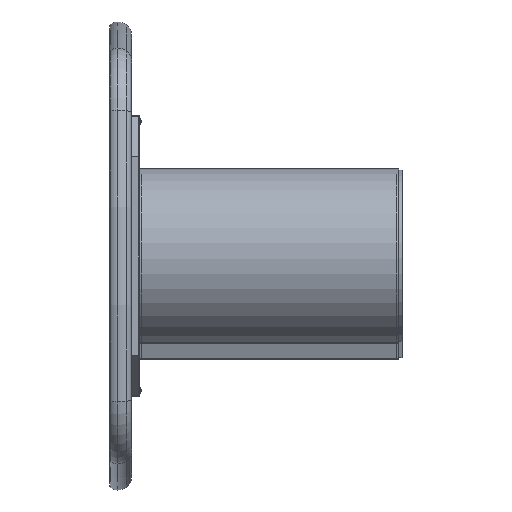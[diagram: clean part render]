
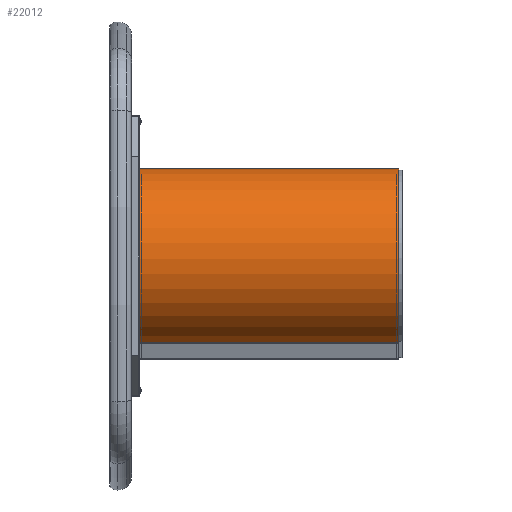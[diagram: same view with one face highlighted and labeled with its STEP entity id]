
A CAD part, left-side view. The second image highlights one B-rep face of the part: STEP entity #22012.
In plain terms, the highlighted cylindrical face has radius 230 mm (diameter 460 mm), a partial arc.
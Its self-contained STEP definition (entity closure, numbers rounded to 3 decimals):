
#123 = DIRECTION ( 'NONE',  ( 0., -1., 0. ) ) ;
#242 = CARTESIAN_POINT ( 'NONE',  ( 2., 665., -230. ) ) ;
#912 = ORIENTED_EDGE ( 'NONE', *, *, #4979, .F. ) ;
#1598 = VECTOR ( 'NONE', #9462, 1000. ) ;
#1919 = EDGE_CURVE ( 'NONE', #7581, #22586, #5926, .T. ) ;
#2426 = CARTESIAN_POINT ( 'NONE',  ( 2., 0., 230. ) ) ;
#3101 = CARTESIAN_POINT ( 'NONE',  ( 2., 0., 0. ) ) ;
#4751 = DIRECTION ( 'NONE',  ( 0., 0., 1. ) ) ;
#4880 = CARTESIAN_POINT ( 'NONE',  ( 2., 665., 230. ) ) ;
#4979 = EDGE_CURVE ( 'NONE', #22586, #11852, #11058, .T. ) ;
#5451 = DIRECTION ( 'NONE',  ( 0., -1., 0. ) ) ;
#5926 = CIRCLE ( 'NONE', #12911, 230. ) ;
#6035 = CARTESIAN_POINT ( 'NONE',  ( 2., 0., -230. ) ) ;
#6041 = AXIS2_PLACEMENT_3D ( 'NONE', #10418, #5451, #21444 ) ;
#6675 = DIRECTION ( 'NONE',  ( 0., 1., 0. ) ) ;
#7036 = CARTESIAN_POINT ( 'NONE',  ( 2., 665., -230. ) ) ;
#7059 = CIRCLE ( 'NONE', #14788, 230. ) ;
#7581 = VERTEX_POINT ( 'NONE', #4880 ) ;
#8644 = EDGE_LOOP ( 'NONE', ( #16719, #912, #21336, #10067 ) ) ;
#9462 = DIRECTION ( 'NONE',  ( 0., -1., 0. ) ) ;
#10067 = ORIENTED_EDGE ( 'NONE', *, *, #21045, .T. ) ;
#10418 = CARTESIAN_POINT ( 'NONE',  ( 2., 665., 0. ) ) ;
#10639 = CYLINDRICAL_SURFACE ( 'NONE', #6041, 230. ) ;
#10734 = LINE ( 'NONE', #18099, #1598 ) ;
#11058 = LINE ( 'NONE', #242, #14188 ) ;
#11852 = VERTEX_POINT ( 'NONE', #6035 ) ;
#12911 = AXIS2_PLACEMENT_3D ( 'NONE', #16969, #18584, #4751 ) ;
#14188 = VECTOR ( 'NONE', #123, 1000. ) ;
#14788 = AXIS2_PLACEMENT_3D ( 'NONE', #3101, #6675, #18261 ) ;
#16719 = ORIENTED_EDGE ( 'NONE', *, *, #20044, .T. ) ;
#16969 = CARTESIAN_POINT ( 'NONE',  ( 2., 665., 0. ) ) ;
#18099 = CARTESIAN_POINT ( 'NONE',  ( 2., 665., 230. ) ) ;
#18261 = DIRECTION ( 'NONE',  ( 0., 0., 1. ) ) ;
#18584 = DIRECTION ( 'NONE',  ( 0., 1., 0. ) ) ;
#18647 = VERTEX_POINT ( 'NONE', #2426 ) ;
#20044 = EDGE_CURVE ( 'NONE', #18647, #11852, #7059, .T. ) ;
#21045 = EDGE_CURVE ( 'NONE', #7581, #18647, #10734, .T. ) ;
#21336 = ORIENTED_EDGE ( 'NONE', *, *, #1919, .F. ) ;
#21444 = DIRECTION ( 'NONE',  ( 0., 0., -1. ) ) ;
#22012 = ADVANCED_FACE ( 'NONE', ( #22721 ), #10639, .T. ) ;
#22586 = VERTEX_POINT ( 'NONE', #7036 ) ;
#22721 = FACE_OUTER_BOUND ( 'NONE', #8644, .T. ) ;
